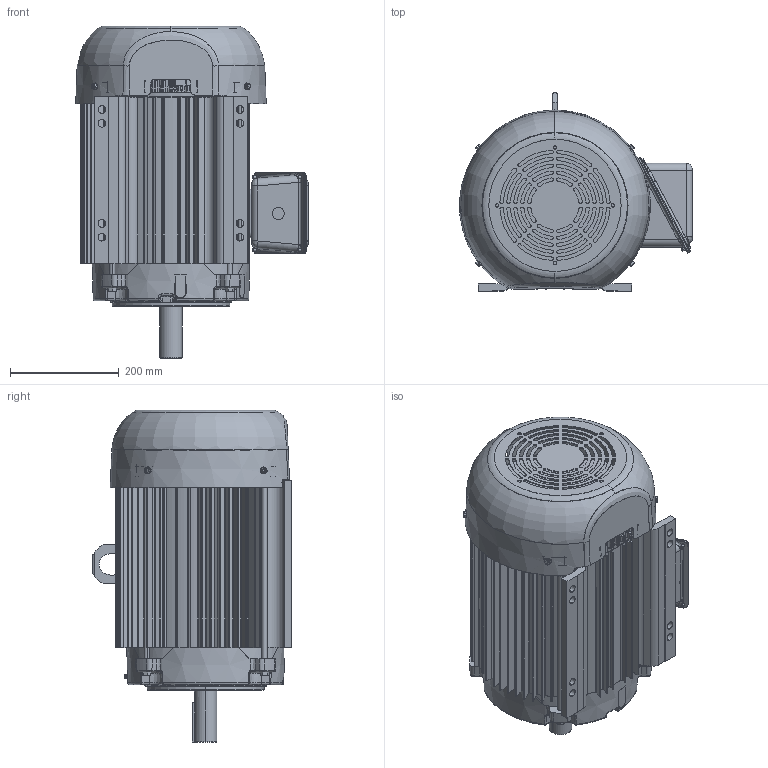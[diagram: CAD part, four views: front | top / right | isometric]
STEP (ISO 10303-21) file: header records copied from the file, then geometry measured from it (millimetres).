
FILE_DESCRIPTION (( 'STEP AP203' ), '1' );
FILE_NAME ('SS321103LN-1200_RevA.STEP', '2019-03-04T20:22:39', ( 'admin' ), ( '' ), 'SwSTEP 2.0', 'SolidWorks 2015', '' );
FILE_SCHEMA (( 'CONFIG_CONTROL_DESIGN' ));
Length unit declared in the file: inch
Products named in the file (1): SS321103LN-1200_RevA
Bounding box: 428.23 x 366.27 x 611.01 mm (x, y, z)
Volume: 7854450.8 mm3; surface area: 2554622.1 mm2
Topology: 32 solids, 32 shells, 4323 faces, 10895 edges, 6559 vertices
Faces by surface type: cylinder 1302, plane 1025, bspline 881, torus 528, cone 483, sphere 104
Entity records: 173618 total; most frequent: CARTESIAN_POINT 75482, ORIENTED_EDGE 21480, DIRECTION 19862, EDGE_CURVE 10740, AXIS2_PLACEMENT_3D 8180, VERTEX_POINT 6559, CIRCLE 4737, EDGE_LOOP 4613
